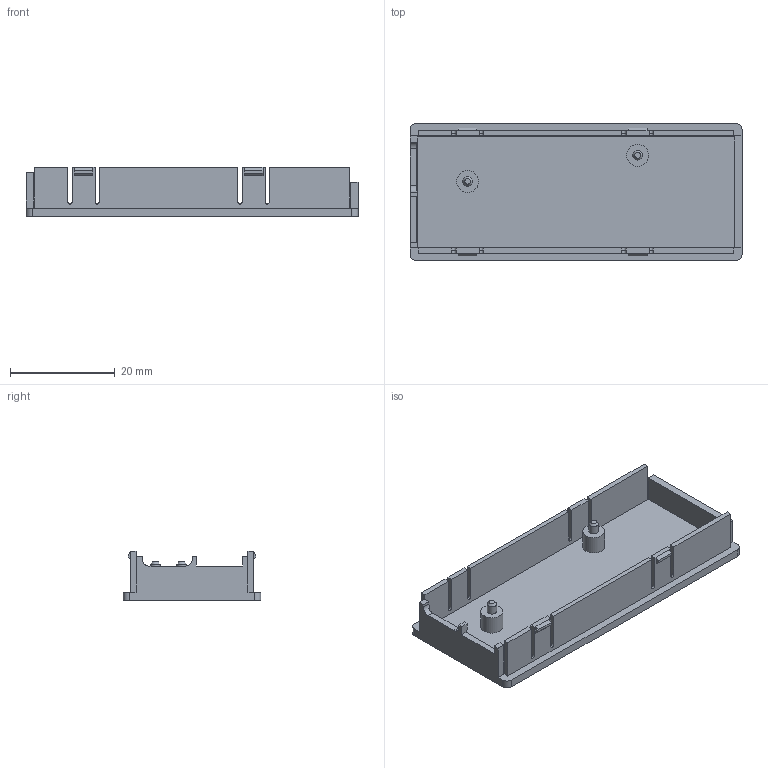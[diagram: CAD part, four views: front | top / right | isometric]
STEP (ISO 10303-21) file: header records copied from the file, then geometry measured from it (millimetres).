
FILE_DESCRIPTION(('Open CASCADE Model'),'2;1');
FILE_NAME('Open CASCADE Shape Model','2026-11-23T18:46:07',('Author'),( 'Open CASCADE'),'Open CASCADE STEP processor 7.9','Open CASCADE 7.9' ,'Unknown');
FILE_SCHEMA(('AUTOMOTIVE_DESIGN { 1 0 10303 214 1 1 1 1 }'));
Length unit declared in the file: millimetre
Products named in the file (1): Open CASCADE STEP translator 7.9 1
Bounding box: 63.45 x 26.3 x 9.4 mm (x, y, z)
Volume: 4000.7 mm3; surface area: 6165.4 mm2
Topology: 1 solids, 1 shells, 116 faces, 314 edges, 206 vertices
Faces by surface type: plane 88, cylinder 26, cone 2
Full cylindrical faces by diameter (mm): 1.8 x2, 4.2 x2
Entity records: 7770 total; most frequent: CARTESIAN_POINT 1427, DIRECTION 1192, LINE 850, VECTOR 850, ORIENTED_EDGE 628, PCURVE 628, DEFINITIONAL_REPRESENTATION 628, EDGE_CURVE 314
